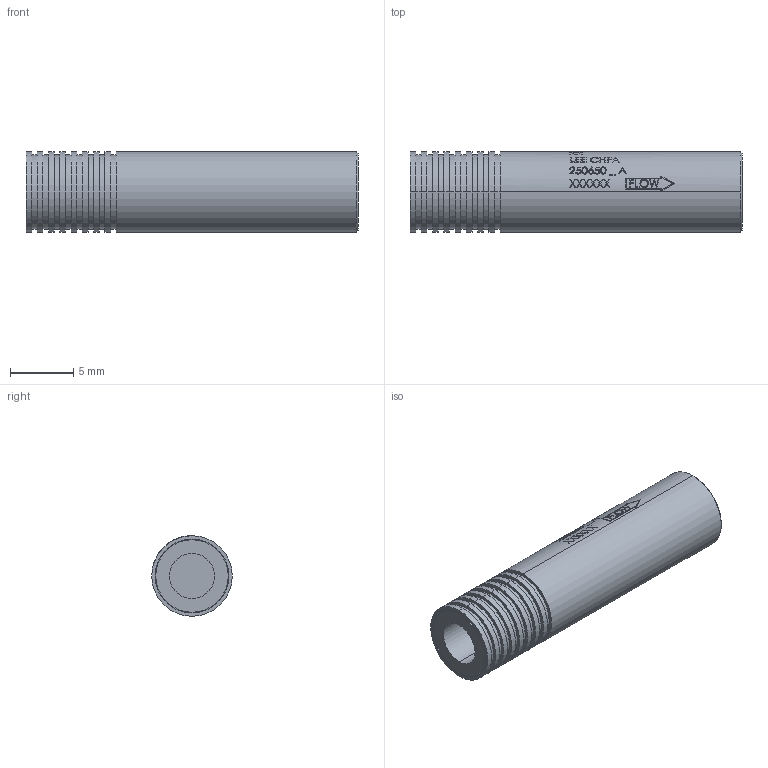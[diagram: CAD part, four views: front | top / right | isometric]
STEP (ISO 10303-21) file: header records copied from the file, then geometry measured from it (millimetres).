
FILE_DESCRIPTION (( 'STEP AP214' ), '1' );
FILE_NAME ('3DCHFA250650-A.STEP', '2021-03-30T19:47:46', ( '' ), ( '' ), 'SwSTEP 2.0', 'SolidWorks 2019', '' );
FILE_SCHEMA (( 'AUTOMOTIVE_DESIGN' ));
Length unit declared in the file: inch
Products named in the file (1): 3DCHFA250650-A
Bounding box: 26.16 x 6.35 x 6.35 mm (x, y, z)
Volume: 726.4 mm3; surface area: 759.9 mm2
Topology: 1 solids, 1 shells, 403 faces, 1040 edges, 692 vertices
Faces by surface type: bspline 165, plane 161, cylinder 73, cone 4
Entity records: 20388 total; most frequent: CARTESIAN_POINT 7565, ORIENTED_EDGE 2080, DIRECTION 1138, EDGE_CURVE 1040, VERTEX_POINT 692, B_SPLINE_CURVE_WITH_KNOTS 550, EDGE_LOOP 456, AXIS2_PLACEMENT_3D 409
